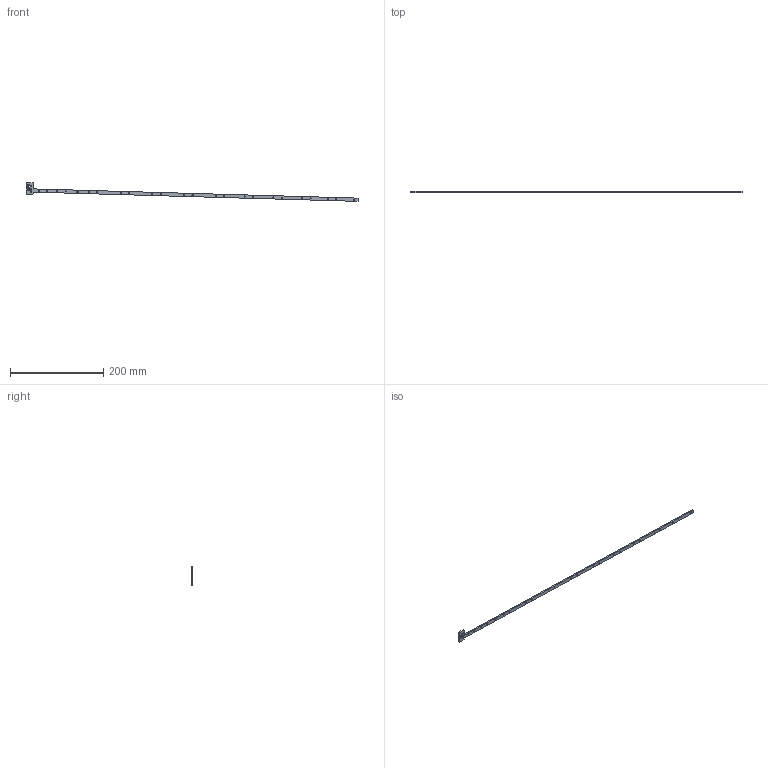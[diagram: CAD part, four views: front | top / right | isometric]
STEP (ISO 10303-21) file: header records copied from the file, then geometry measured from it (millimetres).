
FILE_DESCRIPTION((''),'2;1');
FILE_NAME('0000186956','2024-02-23T16:52:30',('Wyndorps'),(''),'CREO PARAMETRIC BY PTC INC, 2022484','CREO PARAMETRIC BY PTC INC, 2022484','');
FILE_SCHEMA(('CONFIG_CONTROL_DESIGN'));
Length unit declared in the file: millimetre
Products named in the file (1): 0000186956
Bounding box: 713.19 x 3 x 40.21 mm (x, y, z)
Volume: 15206.8 mm3; surface area: 15482 mm2
Topology: 1 solids, 1 shells, 96 faces, 282 edges, 188 vertices
Faces by surface type: plane 50, cylinder 46
Entity records: 3388 total; most frequent: DIRECTION 566, CARTESIAN_POINT 566, ORIENTED_EDGE 564, EDGE_CURVE 282, VECTOR 190, LINE 190, AXIS2_PLACEMENT_3D 188, VERTEX_POINT 188
